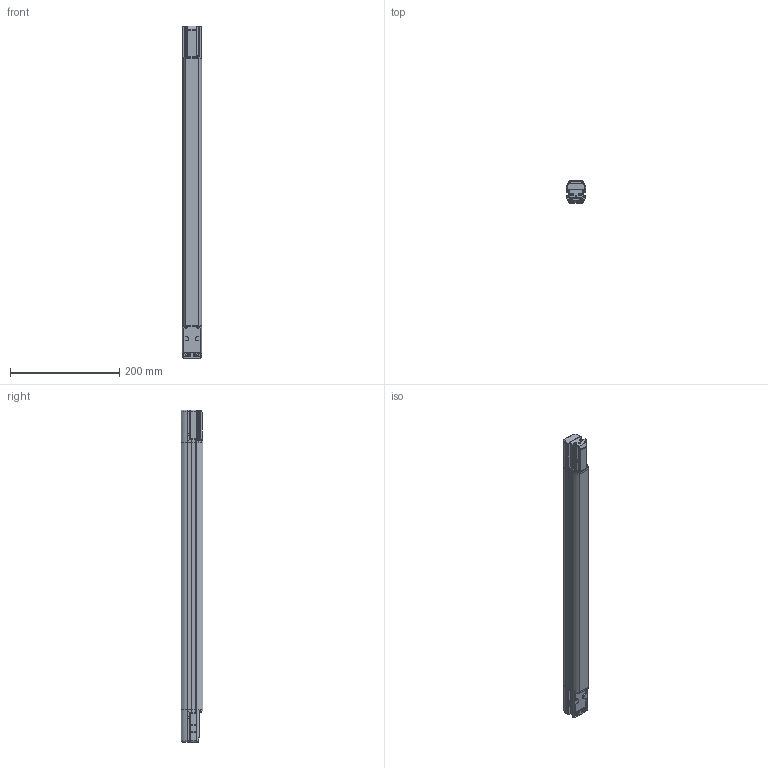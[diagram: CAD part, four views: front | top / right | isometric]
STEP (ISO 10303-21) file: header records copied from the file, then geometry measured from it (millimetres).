
FILE_DESCRIPTION(/* description */ (''),/* implementation_level */ '2;1');
FILE_NAME(/* name */ 'SH4 - 0600 mm DSD Barriera senza Smart Plug.stp',/* time_stamp */ '2022-12-02T18:25:49+01:00',/* author */ (''),/* organization */ (''),/* preprocessor_version */ 'ST-DEVELOPER v16.701',/* originating_system */ 'SIEMENS PLM Software NX 1946',/* authorisation */ '');
FILE_SCHEMA (('AP203_CONFIGURATION_CONTROLLED_3D_DESIGN_OF_MECHANICAL_PARTS_AND_ASSEMBLIES_MIM_LF { 1 0 10303 403 2 1 2}'));
Length unit declared in the file: millimetre
Products named in the file (1): MRos63D4F2E59ww1
Bounding box: 35.08 x 40 x 609 mm (x, y, z)
Volume: 696945.2 mm3; surface area: 152594.3 mm2
Topology: 6 solids, 11 shells, 891 faces, 2428 edges, 1549 vertices
Faces by surface type: plane 363, cylinder 315, bspline 92, cone 55, extrusion 24, sphere 22, torus 20
Full cylindrical faces by diameter (mm): 2.013 x4, 2.2 x4, 3 x4, 4.37 x4, 5 x8
Entity records: 34734 total; most frequent: CARTESIAN_POINT 13104, ORIENTED_EDGE 4576, DIRECTION 3865, EDGE_CURVE 2288, VERTEX_POINT 1515, AXIS2_PLACEMENT_3D 1345, VECTOR 1175, LINE 1151
